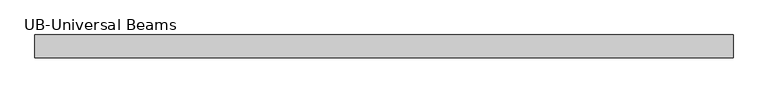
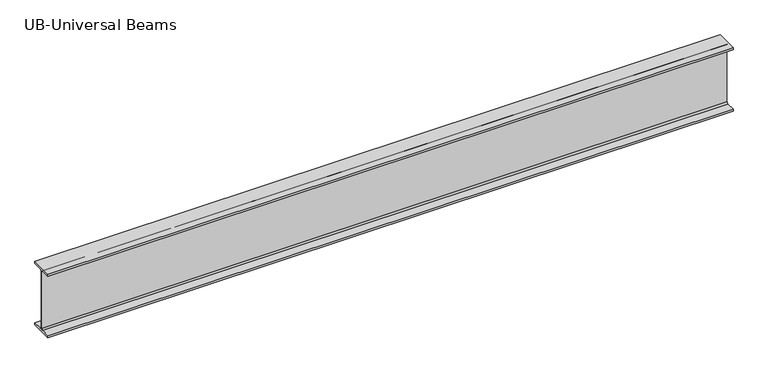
"""IFC4 building model written with IfcOpenShell, lengths in millimetres: beam geometry."""

from ifc_helpers import new_model, si_unit, point, frame, frame_2d, origin, place, context, project, spatial, polyline, circle_curve, trimmed, segment, composite_curve, outline, extrude, source, transform, mapped, element, save


def ub_universal_beams_e0a47d06(model_context):
    return source(origin(), model_context, "Body", "SweptSolid", [
        extrude(outline(composite_curve([segment(polyline([(76.9, -214.0), (76.9, -229.0), (-76.9, -229.0), (-76.9, -214.0), (-14.7, -214.0)]), True, "CONTINUOUS"), segment(trimmed(circle_curve(frame_2d((-14.7, -203.8)), 10.2), [point((-14.7, -214.0))], [point((-4.5, -203.8))], True, "CARTESIAN"), True, "CONTINUOUS"), segment(polyline([(-4.5, -203.8), (-4.5, 203.8)]), True, "CONTINUOUS"), segment(trimmed(circle_curve(frame_2d((-14.7, 203.8)), 10.2), [point((-4.5, 203.8))], [point((-14.7, 214.0))], True, "CARTESIAN"), True, "CONTINUOUS"), segment(polyline([(-14.7, 214.0), (-76.9, 214.0), (-76.9, 229.0), (76.9, 229.0), (76.9, 214.0), (14.7, 214.0)]), True, "CONTINUOUS"), segment(trimmed(circle_curve(frame_2d((14.7, 203.8)), 10.2), [point((14.7, 214.0))], [point((4.5, 203.8))], True, "CARTESIAN"), True, "CONTINUOUS"), segment(polyline([(4.5, 203.8), (4.5, -203.8)]), True, "CONTINUOUS"), segment(trimmed(circle_curve(frame_2d((14.7, -203.8)), 10.2), [point((4.5, -203.8))], [point((14.7, -214.0))], True, "CARTESIAN"), True, "CONTINUOUS"), segment(polyline([(14.7, -214.0), (76.9, -214.0)]), True, "CONTINUOUS")], self_intersect=False)), frame((-2337.3, 0.0, 0.0), z_axis=(1.0, 0.0, 0.0), x_axis=(0.0, 1.0, 0.0)), (0.0, 0.0, 1.0), 4671.4),
    ])


if __name__ == "__main__":
    model = new_model("IFC4")
    model_context = context("Model", 3, world=origin())
    ifc_project = project(units=[si_unit("LENGTHUNIT", "METRE", prefix="MILLI")], contexts=[model_context])
    site = spatial("IfcSite", under=ifc_project)
    building = spatial("IfcBuilding", under=site)
    placement = place(None, origin())
    ub_universal_beams_shape = ub_universal_beams_e0a47d06(model_context)
    element("IfcBeam", 1, ObjectType="UB-Universal Beams : UB 18\" x 6\" x 2 1/2\"", at=placement, inside=building, context=model_context, shape_type="MappedRepresentation", body=[
        mapped(ub_universal_beams_shape, transform((0.0, 0.0, 0.0), x_axis=(1.0, 0.0, 0.0), y_axis=(0.0, 1.0, 0.0), z_axis=(0.0, 0.0, 1.0))),
    ])
    save(model, "model.ifc")
